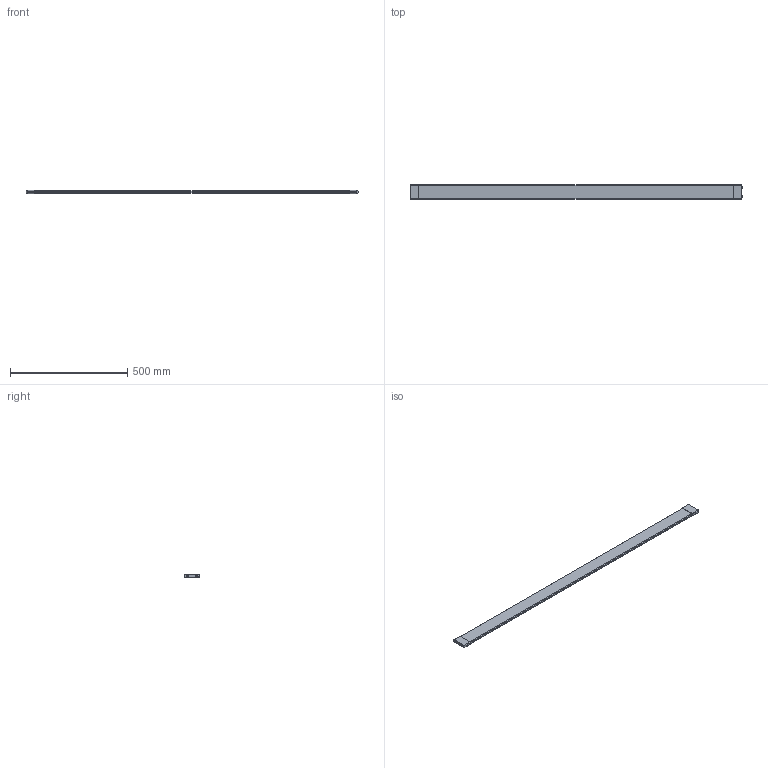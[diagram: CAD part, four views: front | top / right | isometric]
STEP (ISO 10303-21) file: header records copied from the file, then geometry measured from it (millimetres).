
FILE_DESCRIPTION (( 'STEP AP214' ), '1' );
FILE_NAME ('Schubkastenteiler_PROKAB_1500.step', '2009-11-04T15:16:59', ( 'Waldinger Reinhard' ), ( 'Grass GmbH' ), 'SwSTEP 2.0', 'SolidWorks 2009', '' );
FILE_SCHEMA (( 'AUTOMOTIVE_DESIGN' ));
Length unit declared in the file: millimetre
Products named in the file (1): Schubkastenteiler_PROKAB_1500
Bounding box: 1417.9 x 63.7 x 13 mm (x, y, z)
Volume: 843061.8 mm3; surface area: 195241.8 mm2
Topology: 1 solids, 1 shells, 92 faces, 208 edges, 124 vertices
Faces by surface type: cylinder 38, torus 28, plane 22, bspline 4
Entity records: 3210 total; most frequent: CARTESIAN_POINT 1069, DIRECTION 486, ORIENTED_EDGE 416, EDGE_CURVE 208, AXIS2_PLACEMENT_3D 205, VERTEX_POINT 124, CIRCLE 116, EDGE_LOOP 98
